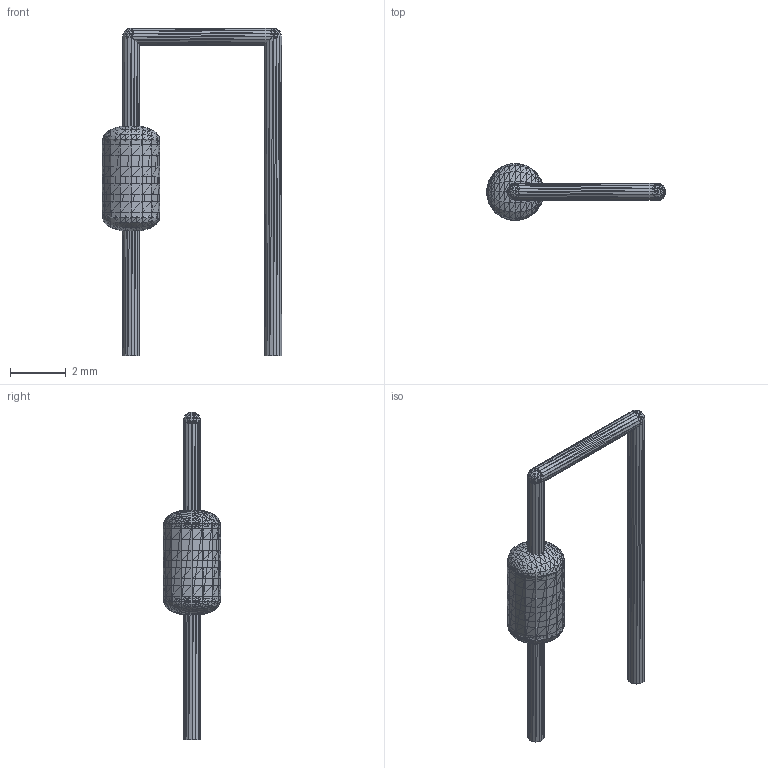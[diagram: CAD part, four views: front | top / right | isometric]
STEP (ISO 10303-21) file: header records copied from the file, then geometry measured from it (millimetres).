
FILE_DESCRIPTION(('HOOPS Exchange Step'),'2;1');
FILE_NAME('***.stp');
FILE_SCHEMA( ('AP242_MANAGED_MODEL_BASED_3D_ENGINEERING_MIM_LF {1 0 10303 442 1 1 4 }') );
Length unit declared in the file: inch
Products named in the file (19): RV_125MW_10K_2; RV_125MW_10K_3; RV_125MW_10K_4; RV_125MW_10K_5; RV_125MW_10K_6; RV_125MW_10K_7; RV_125MW_10K_8; RV_125MW_10K_9; RV_125MW_10K_10; RV_125MW_10K_11; RV_125MW_10K_12; RV_125MW_10K_13; RV_125MW_10K_14; RV_125MW_10K_15; RV_125MW_10K_16; RV_125MW_10K_17; RV_125MW_10K_18; RV_125MW_10K_19; RV_125MW_10K
Assembly tree (18 placements, depth 2):
  RV_125MW_10K
    RV_125MW_10K_2
    RV_125MW_10K_3
    RV_125MW_10K_4
    RV_125MW_10K_5
    RV_125MW_10K_6
    RV_125MW_10K_7
    RV_125MW_10K_8
    RV_125MW_10K_9
    RV_125MW_10K_10
    RV_125MW_10K_11
    RV_125MW_10K_12
    RV_125MW_10K_13
    RV_125MW_10K_14
    RV_125MW_10K_15
    RV_125MW_10K_16
    RV_125MW_10K_17
    RV_125MW_10K_18
    RV_125MW_10K_19
Bounding box: 6.41 x 2.06 x 11.73 mm (x, y, z)
Volume: 19.5 mm3; surface area: 134.7 mm2
Topology: 8 solids, 18 shells, 2432 faces, 3716 edges, 1310 vertices
Faces by surface type: plane 2432
Entity records: 48778 total; most frequent: DIRECTION 8656, CARTESIAN_POINT 7496, ORIENTED_EDGE 7296, VECTOR 3716, LINE 3716, EDGE_CURVE 3716, AXIS2_PLACEMENT_3D 2470, PLANE 2432
